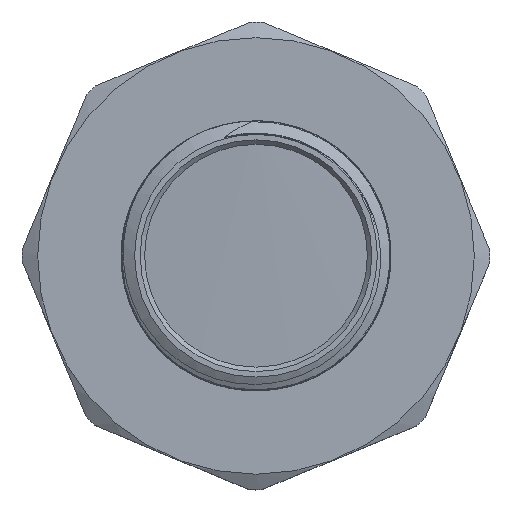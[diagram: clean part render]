
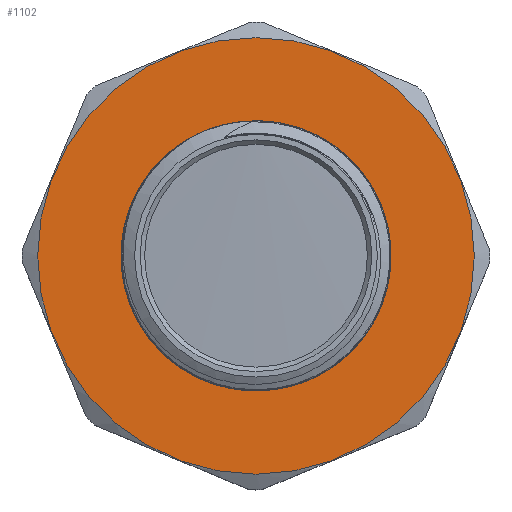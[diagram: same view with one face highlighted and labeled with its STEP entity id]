
A CAD part, top view. The second image highlights one B-rep face of the part: STEP entity #1102.
In plain terms, the highlighted planar face has unit normal (0, 0, 1).
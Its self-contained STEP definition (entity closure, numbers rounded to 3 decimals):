
#19=FACE_BOUND('',#244,.T.);
#34=PLANE('',#1220);
#70=CIRCLE('',#1128,15.145);
#71=CIRCLE('',#1129,15.145);
#75=CIRCLE('',#1147,24.492);
#178=FACE_OUTER_BOUND('',#243,.T.);
#243=EDGE_LOOP('',(#999));
#244=EDGE_LOOP('',(#1000,#1001));
#404=VERTEX_POINT('',#1547);
#405=VERTEX_POINT('',#1549);
#438=VERTEX_POINT('',#2598);
#517=EDGE_CURVE('',#404,#405,#70,.T.);
#518=EDGE_CURVE('',#405,#404,#71,.T.);
#566=EDGE_CURVE('',#438,#438,#75,.T.);
#999=ORIENTED_EDGE('',*,*,#566,.T.);
#1000=ORIENTED_EDGE('',*,*,#518,.F.);
#1001=ORIENTED_EDGE('',*,*,#517,.F.);
#1102=ADVANCED_FACE('',(#178,#19),#34,.T.);
#1128=AXIS2_PLACEMENT_3D('',#1550,#1236,#1237);
#1129=AXIS2_PLACEMENT_3D('',#1551,#1238,#1239);
#1147=AXIS2_PLACEMENT_3D('',#2599,#1288,#1289);
#1220=AXIS2_PLACEMENT_3D('',#8612,#1462,#1463);
#1236=DIRECTION('center_axis',(0.,0.,1.));
#1237=DIRECTION('ref_axis',(1.,0.,0.));
#1238=DIRECTION('center_axis',(0.,0.,1.));
#1239=DIRECTION('ref_axis',(1.,0.,0.));
#1288=DIRECTION('center_axis',(0.,0.,1.));
#1289=DIRECTION('ref_axis',(0.,1.,0.));
#1462=DIRECTION('center_axis',(0.,0.,1.));
#1463=DIRECTION('ref_axis',(1.,0.,0.));
#1547=CARTESIAN_POINT('',(0.,15.145,26.496));
#1549=CARTESIAN_POINT('',(0.,-15.145,26.496));
#1550=CARTESIAN_POINT('Origin',(0.,0.,26.496));
#1551=CARTESIAN_POINT('Origin',(0.,0.,26.496));
#2598=CARTESIAN_POINT('',(0.,-24.492,26.496));
#2599=CARTESIAN_POINT('Origin',(0.,0.,26.496));
#8612=CARTESIAN_POINT('Origin',(0.,-15.145,26.496));
